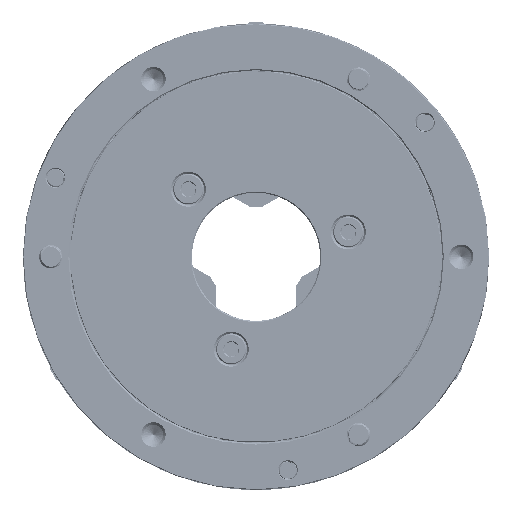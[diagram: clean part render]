
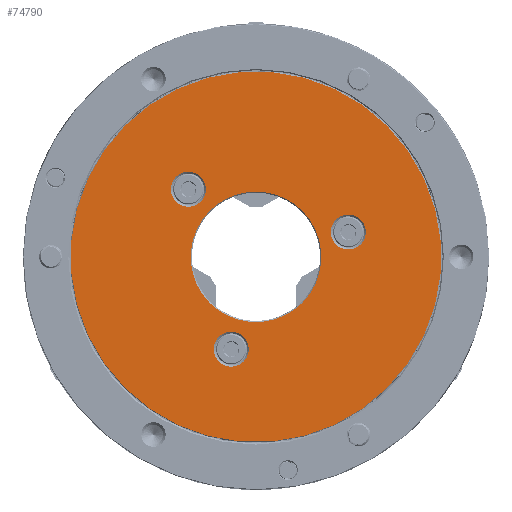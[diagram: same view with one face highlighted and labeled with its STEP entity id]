
A CAD part, front view. The second image highlights one B-rep face of the part: STEP entity #74790.
In plain terms, the highlighted planar face has unit normal (0, -1, 0) as drawn and (-1, 0, 0) by its records, which use the part's own axes.
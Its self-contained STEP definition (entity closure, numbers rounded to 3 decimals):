
#53 = DIRECTION ( 'NONE',  ( 0., 0., 1. ) ) ;
#1252 = EDGE_CURVE ( 'NONE', #24447, #106754, #60438, .T. ) ;
#2224 = ORIENTED_EDGE ( 'NONE', *, *, #118198, .T. ) ;
#3028 = VERTEX_POINT ( 'NONE', #61995 ) ;
#3326 = EDGE_CURVE ( 'NONE', #106754, #24447, #82359, .T. ) ;
#4007 = DIRECTION ( 'NONE',  ( -1., 0., 0. ) ) ;
#5552 = DIRECTION ( 'NONE',  ( 0., 0., 1. ) ) ;
#5605 = ORIENTED_EDGE ( 'NONE', *, *, #101526, .F. ) ;
#10125 = AXIS2_PLACEMENT_3D ( 'NONE', #77188, #78473, #57489 ) ;
#10234 = CIRCLE ( 'NONE', #62585, 79.5 ) ;
#10585 = VERTEX_POINT ( 'NONE', #76926 ) ;
#13990 = EDGE_CURVE ( 'NONE', #78233, #42419, #117482, .T. ) ;
#14142 = DIRECTION ( 'NONE',  ( -1., 0., 0. ) ) ;
#16837 = PLANE ( 'NONE',  #42556 ) ;
#16925 = AXIS2_PLACEMENT_3D ( 'NONE', #82666, #64248, #85223 ) ;
#18770 = DIRECTION ( 'NONE',  ( 1., 0., 0. ) ) ;
#20387 = CARTESIAN_POINT ( 'NONE',  ( 3., -35.507, -20.5 ) ) ;
#24311 = CARTESIAN_POINT ( 'NONE',  ( 3., 0., 79.5 ) ) ;
#24447 = VERTEX_POINT ( 'NONE', #42488 ) ;
#25257 = CARTESIAN_POINT ( 'NONE',  ( 3., 0., 0. ) ) ;
#25751 = AXIS2_PLACEMENT_3D ( 'NONE', #55223, #42819, #82839 ) ;
#26753 = DIRECTION ( 'NONE',  ( -1., 0., 0. ) ) ;
#27410 = EDGE_LOOP ( 'NONE', ( #50374, #69775 ) ) ;
#30010 = AXIS2_PLACEMENT_3D ( 'NONE', #38017, #109499, #58348 ) ;
#31285 = ORIENTED_EDGE ( 'NONE', *, *, #47511, .T. ) ;
#34215 = CARTESIAN_POINT ( 'NONE',  ( 3., -35.507, -20.5 ) ) ;
#38017 = CARTESIAN_POINT ( 'NONE',  ( 3., 0., 0. ) ) ;
#40065 = EDGE_CURVE ( 'NONE', #101494, #77116, #126260, .T. ) ;
#42419 = VERTEX_POINT ( 'NONE', #102628 ) ;
#42488 = CARTESIAN_POINT ( 'NONE',  ( 3., 0., 28. ) ) ;
#42556 = AXIS2_PLACEMENT_3D ( 'NONE', #56853, #18770, #96900 ) ;
#42704 = EDGE_LOOP ( 'NONE', ( #5605, #96547 ) ) ;
#42819 = DIRECTION ( 'NONE',  ( 1., 0., 0. ) ) ;
#44912 = EDGE_CURVE ( 'NONE', #3028, #75936, #105590, .T. ) ;
#47011 = EDGE_LOOP ( 'NONE', ( #2224, #31285 ) ) ;
#47511 = EDGE_CURVE ( 'NONE', #101013, #10585, #80304, .T. ) ;
#48509 = CARTESIAN_POINT ( 'NONE',  ( 3., 0., -28. ) ) ;
#49677 = CARTESIAN_POINT ( 'NONE',  ( 3., 35.507, -20.5 ) ) ;
#50374 = ORIENTED_EDGE ( 'NONE', *, *, #44912, .F. ) ;
#50520 = DIRECTION ( 'NONE',  ( 0., 0., 1. ) ) ;
#51170 = AXIS2_PLACEMENT_3D ( 'NONE', #49677, #26753, #69387 ) ;
#53220 = AXIS2_PLACEMENT_3D ( 'NONE', #117687, #66584, #5552 ) ;
#55223 = CARTESIAN_POINT ( 'NONE',  ( 3., 0., 0. ) ) ;
#55843 = CIRCLE ( 'NONE', #64285, 7.5 ) ;
#56853 = CARTESIAN_POINT ( 'NONE',  ( 3., 79.75, 0. ) ) ;
#57489 = DIRECTION ( 'NONE',  ( 0., 0., -1. ) ) ;
#58026 = CARTESIAN_POINT ( 'NONE',  ( 3., 0., 33.5 ) ) ;
#58348 = DIRECTION ( 'NONE',  ( 0., 0., -1. ) ) ;
#60438 = CIRCLE ( 'NONE', #10125, 28. ) ;
#60449 = DIRECTION ( 'NONE',  ( -1., 0., 0. ) ) ;
#61042 = CARTESIAN_POINT ( 'NONE',  ( 3., 0., 41. ) ) ;
#61995 = CARTESIAN_POINT ( 'NONE',  ( 3., 0., 48.5 ) ) ;
#62585 = AXIS2_PLACEMENT_3D ( 'NONE', #25257, #14142, #116435 ) ;
#64248 = DIRECTION ( 'NONE',  ( -1., 0., 0. ) ) ;
#64285 = AXIS2_PLACEMENT_3D ( 'NONE', #20387, #60449, #53 ) ;
#66584 = DIRECTION ( 'NONE',  ( -1., 0., 0. ) ) ;
#68670 = FACE_BOUND ( 'NONE', #90767, .T. ) ;
#69318 = FACE_BOUND ( 'NONE', #42704, .T. ) ;
#69387 = DIRECTION ( 'NONE',  ( 0., 0., 1. ) ) ;
#69775 = ORIENTED_EDGE ( 'NONE', *, *, #123332, .F. ) ;
#71548 = ORIENTED_EDGE ( 'NONE', *, *, #3326, .T. ) ;
#74790 = ADVANCED_FACE ( 'NONE', ( #68670, #108676, #97548, #69318, #106727 ), #16837, .F. ) ;
#75936 = VERTEX_POINT ( 'NONE', #58026 ) ;
#76504 = CARTESIAN_POINT ( 'NONE',  ( 3., -35.507, -28. ) ) ;
#76926 = CARTESIAN_POINT ( 'NONE',  ( 3., 0., -79.5 ) ) ;
#77116 = VERTEX_POINT ( 'NONE', #76504 ) ;
#77188 = CARTESIAN_POINT ( 'NONE',  ( 3., 0., 0. ) ) ;
#78233 = VERTEX_POINT ( 'NONE', #104582 ) ;
#78473 = DIRECTION ( 'NONE',  ( 1., 0., 0. ) ) ;
#80304 = CIRCLE ( 'NONE', #30010, 79.5 ) ;
#81626 = ORIENTED_EDGE ( 'NONE', *, *, #105548, .F. ) ;
#82359 = CIRCLE ( 'NONE', #25751, 28. ) ;
#82666 = CARTESIAN_POINT ( 'NONE',  ( 3., 35.507, -20.5 ) ) ;
#82839 = DIRECTION ( 'NONE',  ( 0., 0., -1. ) ) ;
#84622 = CIRCLE ( 'NONE', #51170, 7.5 ) ;
#85223 = DIRECTION ( 'NONE',  ( 0., 0., 1. ) ) ;
#89942 = DIRECTION ( 'NONE',  ( -1., 0., 0. ) ) ;
#90767 = EDGE_LOOP ( 'NONE', ( #108860, #71548 ) ) ;
#96547 = ORIENTED_EDGE ( 'NONE', *, *, #13990, .F. ) ;
#96900 = DIRECTION ( 'NONE',  ( 0., 0., -1. ) ) ;
#97548 = FACE_BOUND ( 'NONE', #122982, .T. ) ;
#99073 = AXIS2_PLACEMENT_3D ( 'NONE', #34215, #4007, #112941 ) ;
#101013 = VERTEX_POINT ( 'NONE', #24311 ) ;
#101494 = VERTEX_POINT ( 'NONE', #106793 ) ;
#101526 = EDGE_CURVE ( 'NONE', #42419, #78233, #84622, .T. ) ;
#102628 = CARTESIAN_POINT ( 'NONE',  ( 3., 35.507, -13. ) ) ;
#104582 = CARTESIAN_POINT ( 'NONE',  ( 3., 35.507, -28. ) ) ;
#105548 = EDGE_CURVE ( 'NONE', #77116, #101494, #55843, .T. ) ;
#105590 = CIRCLE ( 'NONE', #53220, 7.5 ) ;
#106727 = FACE_BOUND ( 'NONE', #27410, .T. ) ;
#106754 = VERTEX_POINT ( 'NONE', #48509 ) ;
#106793 = CARTESIAN_POINT ( 'NONE',  ( 3., -35.507, -13. ) ) ;
#108676 = FACE_OUTER_BOUND ( 'NONE', #47011, .T. ) ;
#108860 = ORIENTED_EDGE ( 'NONE', *, *, #1252, .T. ) ;
#109499 = DIRECTION ( 'NONE',  ( -1., 0., 0. ) ) ;
#112941 = DIRECTION ( 'NONE',  ( 0., 0., 1. ) ) ;
#116435 = DIRECTION ( 'NONE',  ( 0., 0., -1. ) ) ;
#117482 = CIRCLE ( 'NONE', #16925, 7.5 ) ;
#117687 = CARTESIAN_POINT ( 'NONE',  ( 3., 0., 41. ) ) ;
#118198 = EDGE_CURVE ( 'NONE', #10585, #101013, #10234, .T. ) ;
#122982 = EDGE_LOOP ( 'NONE', ( #129715, #81626 ) ) ;
#123332 = EDGE_CURVE ( 'NONE', #75936, #3028, #128159, .T. ) ;
#123948 = AXIS2_PLACEMENT_3D ( 'NONE', #61042, #89942, #50520 ) ;
#126260 = CIRCLE ( 'NONE', #99073, 7.5 ) ;
#128159 = CIRCLE ( 'NONE', #123948, 7.5 ) ;
#129715 = ORIENTED_EDGE ( 'NONE', *, *, #40065, .F. ) ;
